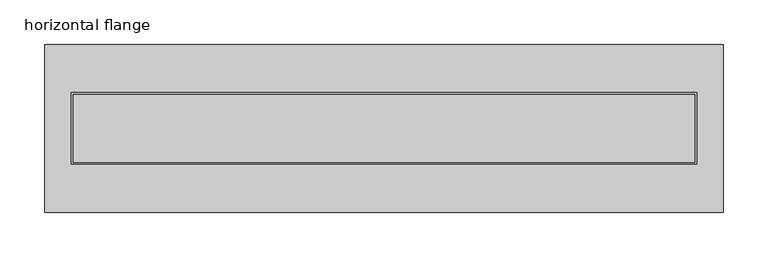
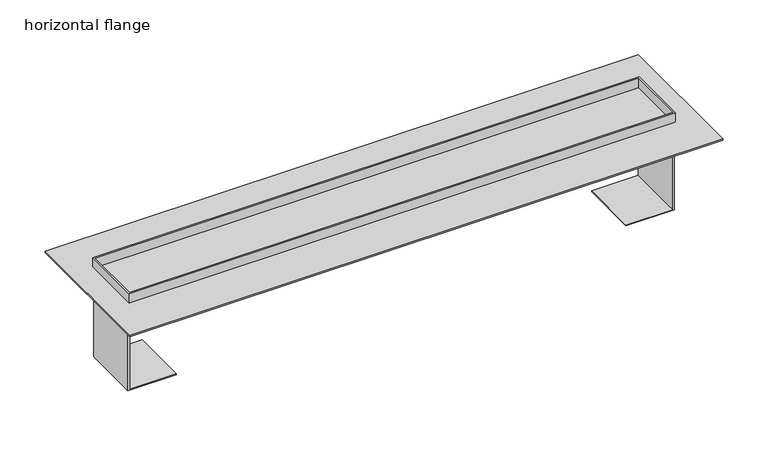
"""IFC4 building model written with IfcOpenShell, lengths in millimetres: sanitary terminal geometry, PF_UN_ShowerDrain M plus_ACO : horizontal flange."""

from ifc_helpers import new_model, si_unit, frame, origin, origin_with_axes, place, context, project, spatial, polyline, outline, extrude, faceted_brep, source, transform, mapped, element, save


def horizontal_flange_77aa5604(model_context):
    return source(origin(), model_context, "Body", "SolidModel", [
        extrude(outline(polyline([(380.0, 94.0), (380.0, -94.0), (-380.0, -94.0), (-380.0, 94.0), (380.0, 94.0)])), origin_with_axes(), (0.0, 0.0, 1.0), 2.0),
        extrude(outline(polyline([(-16.5, -348.0), (-16.5, -350.0), (-117.5, -350.0), (-117.5, -288.0), (-116.5, -288.0), (-116.5, -348.0), (-16.5, -348.0)])), frame((0.0, -38.0, 0.0), z_axis=(0.0, 1.0, 0.0), x_axis=(0.0, 0.0, 1.0)), (0.0, 0.0, 1.0), 76.0),
        extrude(outline(polyline([(-16.5, 348.0), (-116.5, 348.0), (-116.5, 288.0), (-117.5, 288.0), (-117.5, 350.0), (-16.5, 350.0), (-16.5, 348.0)])), frame((0.0, -38.0, 0.0), z_axis=(0.0, 1.0, 0.0), x_axis=(0.0, 0.0, 1.0)), (0.0, 0.0, 1.0), 76.0),
        faceted_brep([(350.0, 40.0, 15.0), (-350.0, 40.0, 15.0), (-350.0, -40.0, 15.0), (350.0, -40.0, 15.0), (-348.0, -38.0, 15.0), (-348.0, 38.0, 15.0), (348.0, 38.0, 15.0), (348.0, -38.0, 15.0), (350.0, 40.0, -16.5), (350.0, -40.0, -16.5), (-350.0, -40.0, -16.5), (-350.0, 40.0, -16.5), (-348.0, 38.0, -6.0), (-348.0, -38.0, -6.0), (348.0, -38.0, -6.0), (348.0, 38.0, -6.0)], [[[0, 1, 2, 3], [4, 5, 6, 7]], [[8, 9, 10, 11]], [[1, 0, 8, 11]], [[2, 1, 11, 10]], [[3, 2, 10, 9]], [[0, 3, 9, 8]], [[12, 13, 14, 15]], [[13, 12, 5, 4]], [[14, 13, 4, 7]], [[15, 14, 7, 6]], [[12, 15, 6, 5]]]),
    ])


if __name__ == "__main__":
    model = new_model("IFC4")
    model_context = context("Model", 3, world=origin())
    ifc_project = project(units=[si_unit("LENGTHUNIT", "METRE", prefix="MILLI")], contexts=[model_context])
    site = spatial("IfcSite", under=ifc_project)
    building = spatial("IfcBuilding", under=site)
    placement = place(None, origin())
    horizontal_flange_shape = horizontal_flange_77aa5604(model_context)
    element("IfcSanitaryTerminal", 1, ObjectType="PF_UN_ShowerDrain M plus_ACO : horizontal flange", at=placement, inside=building, context=model_context, shape_type="MappedRepresentation", body=[
        mapped(horizontal_flange_shape, transform((0.0, 0.0, 0.0), x_axis=(1.0, 0.0, 0.0), y_axis=(0.0, 1.0, 0.0), z_axis=(0.0, 0.0, 1.0))),
    ])
    save(model, "model.ifc")
